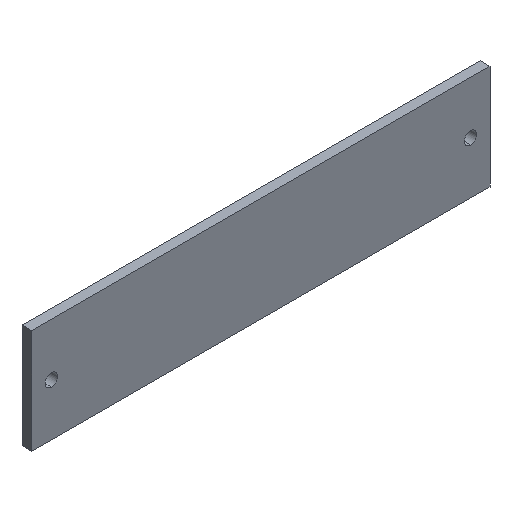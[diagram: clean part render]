
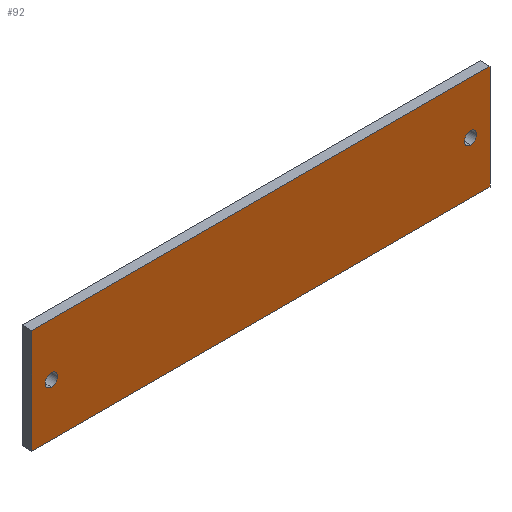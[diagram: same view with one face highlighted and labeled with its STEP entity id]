
A CAD part, isometric view. The second image highlights one B-rep face of the part: STEP entity #92.
In plain terms, the highlighted planar face has unit normal (0, -1, 0).
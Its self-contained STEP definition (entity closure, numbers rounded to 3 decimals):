
#1 = EDGE_CURVE ( 'NONE', #278, #340, #217, .T. ) ;
#3 = EDGE_CURVE ( 'NONE', #211, #234, #200, .T. ) ;
#8 = CARTESIAN_POINT ( 'NONE',  ( -42.1, -1., -1.25 ) ) ;
#12 = ORIENTED_EDGE ( 'NONE', *, *, #223, .F. ) ;
#15 = DIRECTION ( 'NONE',  ( 0., 1., 0. ) ) ;
#16 = DIRECTION ( 'NONE',  ( 0., 1., 0. ) ) ;
#18 = DIRECTION ( 'NONE',  ( 0., 1., 0. ) ) ;
#22 = VECTOR ( 'NONE', #221, 1000. ) ;
#37 = AXIS2_PLACEMENT_3D ( 'NONE', #82, #113, #188 ) ;
#39 = ORIENTED_EDGE ( 'NONE', *, *, #60, .T. ) ;
#42 = LINE ( 'NONE', #102, #171 ) ;
#45 = CARTESIAN_POINT ( 'NONE',  ( -42.1, -1., 0. ) ) ;
#50 = DIRECTION ( 'NONE',  ( 0., 0., 1. ) ) ;
#60 = EDGE_CURVE ( 'NONE', #146, #98, #90, .T. ) ;
#63 = EDGE_CURVE ( 'NONE', #98, #146, #325, .T. ) ;
#67 = CARTESIAN_POINT ( 'NONE',  ( 46., -1., -10.5 ) ) ;
#68 = ORIENTED_EDGE ( 'NONE', *, *, #1, .F. ) ;
#79 = EDGE_CURVE ( 'NONE', #340, #177, #297, .T. ) ;
#82 = CARTESIAN_POINT ( 'NONE',  ( 42.1, -1., 0. ) ) ;
#84 = VECTOR ( 'NONE', #257, 1000. ) ;
#90 = CIRCLE ( 'NONE', #283, 1.25 ) ;
#92 = ADVANCED_FACE ( 'NONE', ( #319, #346, #114 ), #227, .F. ) ;
#98 = VERTEX_POINT ( 'NONE', #172 ) ;
#101 = VERTEX_POINT ( 'NONE', #279 ) ;
#102 = CARTESIAN_POINT ( 'NONE',  ( 46., -1., -10.5 ) ) ;
#106 = DIRECTION ( 'NONE',  ( 1., 0., 0. ) ) ;
#113 = DIRECTION ( 'NONE',  ( 0., 1., 0. ) ) ;
#114 = FACE_OUTER_BOUND ( 'NONE', #157, .T. ) ;
#117 = DIRECTION ( 'NONE',  ( 0., 1., 0. ) ) ;
#128 = AXIS2_PLACEMENT_3D ( 'NONE', #296, #15, #50 ) ;
#129 = ORIENTED_EDGE ( 'NONE', *, *, #79, .F. ) ;
#146 = VERTEX_POINT ( 'NONE', #287 ) ;
#150 = CARTESIAN_POINT ( 'NONE',  ( -46., -1., 10.5 ) ) ;
#156 = DIRECTION ( 'NONE',  ( -1., 0., 0. ) ) ;
#157 = EDGE_LOOP ( 'NONE', ( #209, #12, #129, #68 ) ) ;
#171 = VECTOR ( 'NONE', #156, 1000. ) ;
#172 = CARTESIAN_POINT ( 'NONE',  ( 42.1, -1., -1.25 ) ) ;
#176 = DIRECTION ( 'NONE',  ( 0., 0., 1. ) ) ;
#177 = VERTEX_POINT ( 'NONE', #67 ) ;
#179 = CARTESIAN_POINT ( 'NONE',  ( -46., -1., 10.5 ) ) ;
#186 = CARTESIAN_POINT ( 'NONE',  ( 46., -1., 10.5 ) ) ;
#188 = DIRECTION ( 'NONE',  ( 0., 0., 1. ) ) ;
#200 = CIRCLE ( 'NONE', #128, 1.25 ) ;
#202 = EDGE_LOOP ( 'NONE', ( #205, #241 ) ) ;
#205 = ORIENTED_EDGE ( 'NONE', *, *, #3, .T. ) ;
#209 = ORIENTED_EDGE ( 'NONE', *, *, #230, .F. ) ;
#211 = VERTEX_POINT ( 'NONE', #341 ) ;
#217 = LINE ( 'NONE', #291, #347 ) ;
#221 = DIRECTION ( 'NONE',  ( 0., 0., -1. ) ) ;
#223 = EDGE_CURVE ( 'NONE', #177, #101, #42, .T. ) ;
#225 = AXIS2_PLACEMENT_3D ( 'NONE', #253, #117, #229 ) ;
#227 = PLANE ( 'NONE',  #225 ) ;
#229 = DIRECTION ( 'NONE',  ( 0., 0., 1. ) ) ;
#230 = EDGE_CURVE ( 'NONE', #101, #278, #339, .T. ) ;
#234 = VERTEX_POINT ( 'NONE', #8 ) ;
#241 = ORIENTED_EDGE ( 'NONE', *, *, #262, .T. ) ;
#250 = CARTESIAN_POINT ( 'NONE',  ( 46., -1., 10.5 ) ) ;
#253 = CARTESIAN_POINT ( 'NONE',  ( -46., -1., -10.5 ) ) ;
#257 = DIRECTION ( 'NONE',  ( 0., 0., 1. ) ) ;
#262 = EDGE_CURVE ( 'NONE', #234, #211, #349, .T. ) ;
#278 = VERTEX_POINT ( 'NONE', #179 ) ;
#279 = CARTESIAN_POINT ( 'NONE',  ( -46., -1., -10.5 ) ) ;
#283 = AXIS2_PLACEMENT_3D ( 'NONE', #313, #18, #317 ) ;
#287 = CARTESIAN_POINT ( 'NONE',  ( 42.1, -1., 1.25 ) ) ;
#291 = CARTESIAN_POINT ( 'NONE',  ( 46., -1., 10.5 ) ) ;
#296 = CARTESIAN_POINT ( 'NONE',  ( -42.1, -1., 0. ) ) ;
#297 = LINE ( 'NONE', #250, #22 ) ;
#298 = AXIS2_PLACEMENT_3D ( 'NONE', #45, #16, #176 ) ;
#313 = CARTESIAN_POINT ( 'NONE',  ( 42.1, -1., 0. ) ) ;
#314 = ORIENTED_EDGE ( 'NONE', *, *, #63, .T. ) ;
#317 = DIRECTION ( 'NONE',  ( 0., 0., 1. ) ) ;
#319 = FACE_BOUND ( 'NONE', #202, .T. ) ;
#325 = CIRCLE ( 'NONE', #37, 1.25 ) ;
#327 = EDGE_LOOP ( 'NONE', ( #39, #314 ) ) ;
#339 = LINE ( 'NONE', #150, #84 ) ;
#340 = VERTEX_POINT ( 'NONE', #186 ) ;
#341 = CARTESIAN_POINT ( 'NONE',  ( -42.1, -1., 1.25 ) ) ;
#346 = FACE_BOUND ( 'NONE', #327, .T. ) ;
#347 = VECTOR ( 'NONE', #106, 1000. ) ;
#349 = CIRCLE ( 'NONE', #298, 1.25 ) ;
